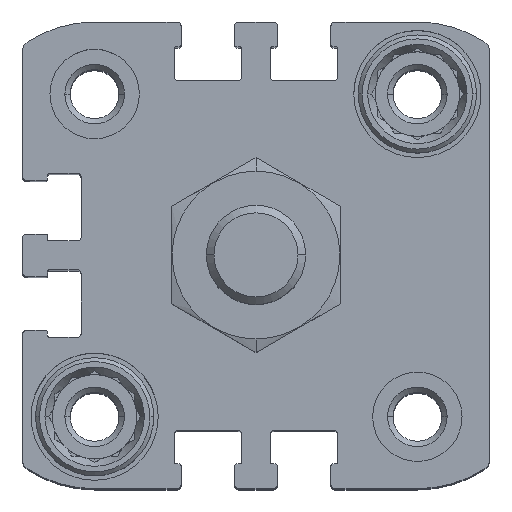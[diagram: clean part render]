
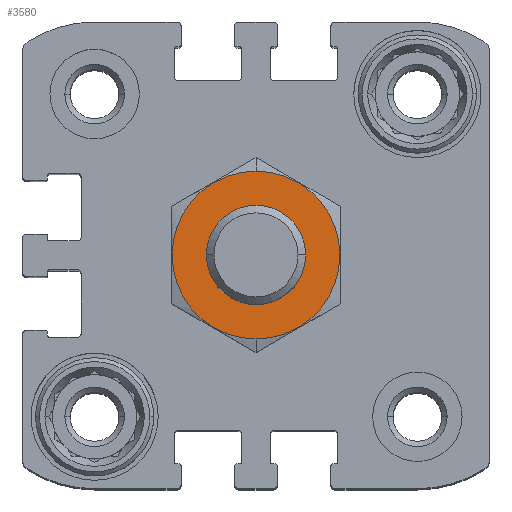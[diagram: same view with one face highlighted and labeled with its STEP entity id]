
A CAD part, top view. The second image highlights one B-rep face of the part: STEP entity #3580.
In plain terms, the highlighted planar face has unit normal (0, 0, 1).
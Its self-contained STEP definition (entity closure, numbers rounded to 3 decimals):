
#308 = FACE_OUTER_BOUND ( 'NONE', #5726, .T. ) ;
#366 = EDGE_CURVE ( 'NONE', #10649, #8669, #3141, .T. ) ;
#683 = DIRECTION ( 'NONE',  ( 0., 0., -1. ) ) ;
#839 = AXIS2_PLACEMENT_3D ( 'NONE', #13732, #6799, #16107 ) ;
#1788 = FACE_BOUND ( 'NONE', #6180, .T. ) ;
#2250 = DIRECTION ( 'NONE',  ( 0., 1., 0. ) ) ;
#2442 = CARTESIAN_POINT ( 'NONE',  ( 0., 5., 15.75 ) ) ;
#3141 = CIRCLE ( 'NONE', #16033, 5. ) ;
#3571 = DIRECTION ( 'NONE',  ( 0., 0., -1. ) ) ;
#3580 = ADVANCED_FACE ( 'NONE', ( #308, #1788 ), #4337, .F. ) ;
#4228 = ORIENTED_EDGE ( 'NONE', *, *, #4955, .F. ) ;
#4293 = VERTEX_POINT ( 'NONE', #11677 ) ;
#4337 = PLANE ( 'NONE',  #839 ) ;
#4955 = EDGE_CURVE ( 'NONE', #4293, #15274, #16937, .T. ) ;
#5200 = DIRECTION ( 'NONE',  ( 0., 0., -1. ) ) ;
#5223 = ORIENTED_EDGE ( 'NONE', *, *, #17025, .F. ) ;
#5726 = EDGE_LOOP ( 'NONE', ( #4228, #5223 ) ) ;
#6180 = EDGE_LOOP ( 'NONE', ( #9832, #8800 ) ) ;
#6799 = DIRECTION ( 'NONE',  ( 0., 0., -1. ) ) ;
#7351 = DIRECTION ( 'NONE',  ( 0., 1., 0. ) ) ;
#8415 = CARTESIAN_POINT ( 'NONE',  ( 0., 0., 15.75 ) ) ;
#8669 = VERTEX_POINT ( 'NONE', #14385 ) ;
#8800 = ORIENTED_EDGE ( 'NONE', *, *, #366, .T. ) ;
#9380 = AXIS2_PLACEMENT_3D ( 'NONE', #16001, #5200, #13271 ) ;
#9691 = DIRECTION ( 'NONE',  ( 0., 0., -1. ) ) ;
#9812 = AXIS2_PLACEMENT_3D ( 'NONE', #15594, #3571, #7351 ) ;
#9832 = ORIENTED_EDGE ( 'NONE', *, *, #10876, .T. ) ;
#9893 = CIRCLE ( 'NONE', #15768, 5. ) ;
#10268 = CARTESIAN_POINT ( 'NONE',  ( 0., -8.45, 15.75 ) ) ;
#10649 = VERTEX_POINT ( 'NONE', #2442 ) ;
#10876 = EDGE_CURVE ( 'NONE', #8669, #10649, #9893, .T. ) ;
#11677 = CARTESIAN_POINT ( 'NONE',  ( 0., 8.45, 15.75 ) ) ;
#12151 = CARTESIAN_POINT ( 'NONE',  ( 0., 0., 15.75 ) ) ;
#13271 = DIRECTION ( 'NONE',  ( 0., 1., 0. ) ) ;
#13732 = CARTESIAN_POINT ( 'NONE',  ( 0., 0., 15.75 ) ) ;
#14385 = CARTESIAN_POINT ( 'NONE',  ( 0., -5., 15.75 ) ) ;
#15037 = DIRECTION ( 'NONE',  ( 0., 1., 0. ) ) ;
#15120 = CIRCLE ( 'NONE', #9812, 8.45 ) ;
#15274 = VERTEX_POINT ( 'NONE', #10268 ) ;
#15594 = CARTESIAN_POINT ( 'NONE',  ( 0., 0., 15.75 ) ) ;
#15768 = AXIS2_PLACEMENT_3D ( 'NONE', #8415, #683, #2250 ) ;
#16001 = CARTESIAN_POINT ( 'NONE',  ( 0., 0., 15.75 ) ) ;
#16033 = AXIS2_PLACEMENT_3D ( 'NONE', #12151, #9691, #15037 ) ;
#16107 = DIRECTION ( 'NONE',  ( 0., 1., 0. ) ) ;
#16937 = CIRCLE ( 'NONE', #9380, 8.45 ) ;
#17025 = EDGE_CURVE ( 'NONE', #15274, #4293, #15120, .T. ) ;
